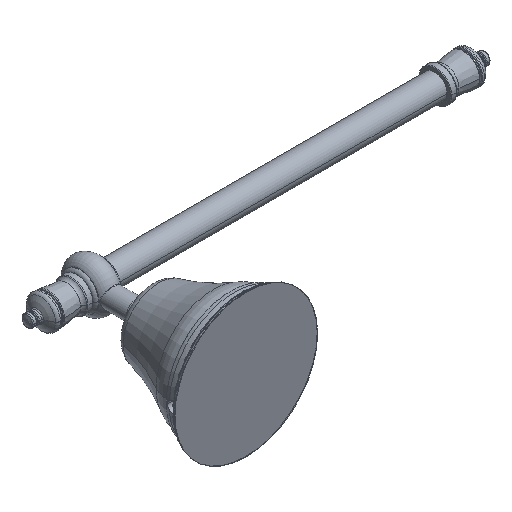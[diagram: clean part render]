
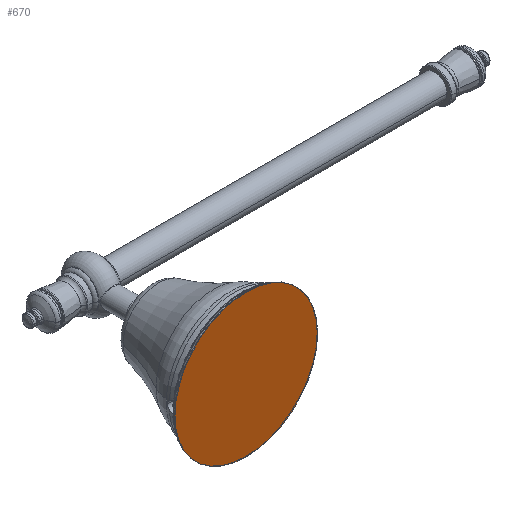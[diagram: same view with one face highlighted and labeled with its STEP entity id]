
A CAD part, isometric view. The second image highlights one B-rep face of the part: STEP entity #670.
In plain terms, the highlighted planar face has unit normal (0, -1, 0).
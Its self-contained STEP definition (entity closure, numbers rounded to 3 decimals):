
#6=CARTESIAN_POINT('',(0.,0.,0.));
#7=DIRECTION('',(0.,-1.,0.));
#8=DIRECTION('',(1.,0.,0.));
#9=AXIS2_PLACEMENT_3D('',#6,#7,#8);
#242=CARTESIAN_POINT('',(0.,0.,0.));
#243=DIRECTION('',(0.,1.,0.));
#244=DIRECTION('',(1.,0.,0.));
#245=AXIS2_PLACEMENT_3D('',#242,#243,#244);
#585=CARTESIAN_POINT('',(35.,0.,0.));
#586=CARTESIAN_POINT('',(-35.,0.,0.));
#587=VERTEX_POINT('',#585);
#588=VERTEX_POINT('',#586);
#659=CARTESIAN_POINT('',(0.,0.,0.));
#660=DIRECTION('',(0.,-1.,0.));
#661=DIRECTION('',(-1.,0.,0.));
#662=AXIS2_PLACEMENT_3D('',#659,#660,#661);
#663=PLANE('',#662);
#665=ORIENTED_EDGE('',*,*,#664,.T.);
#667=ORIENTED_EDGE('',*,*,#666,.F.);
#668=EDGE_LOOP('',(#665,#667));
#669=FACE_OUTER_BOUND('',#668,.F.);
#670=ADVANCED_FACE('',(#669),#663,.T.);
#10=CIRCLE('',#9,35.);
#246=CIRCLE('',#245,35.);
#664=EDGE_CURVE('',#587,#588,#246,.T.);
#666=EDGE_CURVE('',#587,#588,#10,.T.);
